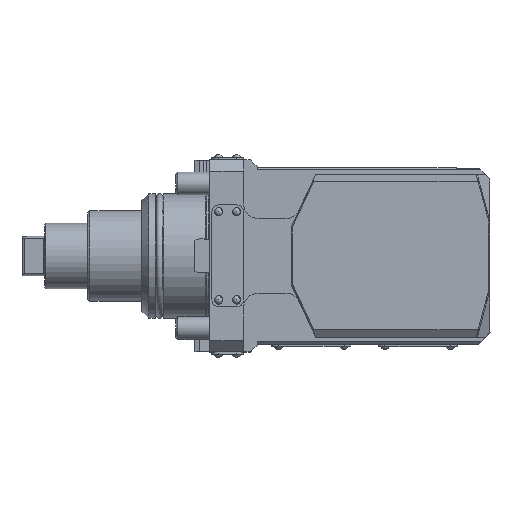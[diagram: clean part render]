
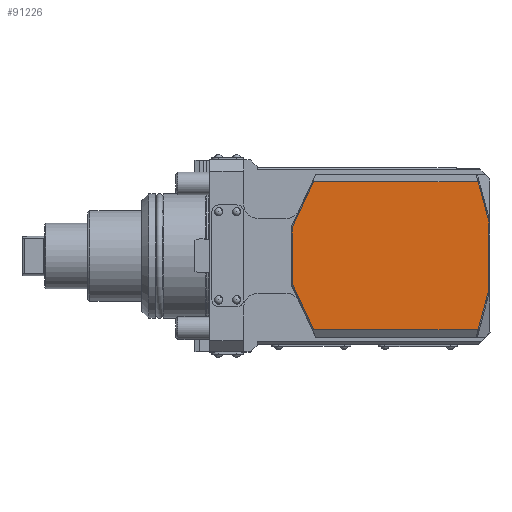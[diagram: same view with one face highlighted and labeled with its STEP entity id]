
A CAD part, top view. The second image highlights one B-rep face of the part: STEP entity #91226.
In plain terms, the highlighted planar face has unit normal (0, 0, 1) as drawn and (-1, 0, 0) by its records, which use the part's own axes.
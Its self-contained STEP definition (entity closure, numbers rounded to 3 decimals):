
#40722=VECTOR('',#67126,1.);
#40733=VECTOR('',#67141,1.);
#40738=VECTOR('',#67148,1.);
#40739=VECTOR('',#67149,1.);
#40740=VECTOR('',#67150,1.);
#40741=VECTOR('',#67151,1.);
#40742=VECTOR('',#67152,1.);
#40743=VECTOR('',#67153,1.);
#42589=LINE('',#81392,#40722);
#42600=LINE('',#81415,#40733);
#42605=LINE('',#81424,#40738);
#42606=LINE('',#81426,#40739);
#42607=LINE('',#81427,#40740);
#42608=LINE('',#81429,#40741);
#42609=LINE('',#81431,#40742);
#42610=LINE('',#81432,#40743);
#48139=ORIENTED_EDGE('',*,*,#57229,.F.);
#48140=ORIENTED_EDGE('',*,*,#57245,.F.);
#48141=ORIENTED_EDGE('',*,*,#57246,.F.);
#48142=ORIENTED_EDGE('',*,*,#57247,.F.);
#48143=ORIENTED_EDGE('',*,*,#57240,.F.);
#48144=ORIENTED_EDGE('',*,*,#57248,.F.);
#48145=ORIENTED_EDGE('',*,*,#57249,.F.);
#48146=ORIENTED_EDGE('',*,*,#57250,.F.);
#53974=VERTEX_POINT('',#81389);
#53975=VERTEX_POINT('',#81391);
#53984=VERTEX_POINT('',#81413);
#53985=VERTEX_POINT('',#81414);
#53988=VERTEX_POINT('',#81423);
#53989=VERTEX_POINT('',#81425);
#53990=VERTEX_POINT('',#81428);
#53991=VERTEX_POINT('',#81430);
#57229=EDGE_CURVE('',#53974,#53975,#42589,.T.);
#57240=EDGE_CURVE('',#53984,#53985,#42600,.T.);
#57245=EDGE_CURVE('',#53988,#53974,#42605,.T.);
#57246=EDGE_CURVE('',#53989,#53988,#42606,.T.);
#57247=EDGE_CURVE('',#53985,#53989,#42607,.T.);
#57248=EDGE_CURVE('',#53990,#53984,#42608,.T.);
#57249=EDGE_CURVE('',#53991,#53990,#42609,.T.);
#57250=EDGE_CURVE('',#53975,#53991,#42610,.T.);
#59885=EDGE_LOOP('',(#48139,#48140,#48141,#48142,#48143,#48144,#48145,#48146));
#61792=FACE_BOUND('',#59885,.T.);
#67126=DIRECTION('',(0.,-72.709,0.));
#67141=DIRECTION('',(0.,72.709,0.));
#67146=DIRECTION('',(-1.,0.,0.));
#67147=DIRECTION('',(0.,1.,0.));
#67148=DIRECTION('',(0.,-9.524,20.425));
#67149=DIRECTION('',(0.,0.,24.599));
#67150=DIRECTION('',(0.,9.524,20.425));
#67151=DIRECTION('',(0.,4.767,-17.79));
#67152=DIRECTION('',(0.,0.,-29.868));
#67153=DIRECTION('',(0.,-4.767,-17.79));
#81389=CARTESIAN_POINT('',(46.381,126.198,32.724));
#81391=CARTESIAN_POINT('',(46.381,53.489,32.724));
#81392=CARTESIAN_POINT('',(46.381,126.198,32.724));
#81413=CARTESIAN_POINT('',(46.381,53.489,-32.724));
#81414=CARTESIAN_POINT('',(46.381,126.198,-32.724));
#81415=CARTESIAN_POINT('',(46.381,53.489,-32.724));
#81422=CARTESIAN_POINT('',(46.381,48.222,0.));
#81423=CARTESIAN_POINT('',(46.381,135.722,12.3));
#81424=CARTESIAN_POINT('',(46.381,135.722,12.3));
#81425=CARTESIAN_POINT('',(46.381,135.722,-12.3));
#81426=CARTESIAN_POINT('',(46.381,135.722,-12.3));
#81427=CARTESIAN_POINT('',(46.381,126.198,-32.724));
#81428=CARTESIAN_POINT('',(46.381,48.722,-14.934));
#81429=CARTESIAN_POINT('',(46.381,48.722,-14.934));
#81430=CARTESIAN_POINT('',(46.381,48.722,14.934));
#81431=CARTESIAN_POINT('',(46.381,48.722,14.934));
#81432=CARTESIAN_POINT('',(46.381,53.489,32.724));
#88165=AXIS2_PLACEMENT_3D('',#81422,#67146,#67147);
#89872=PLANE('',#88165);
#91226=ADVANCED_FACE('',(#61792),#89872,.T.);
